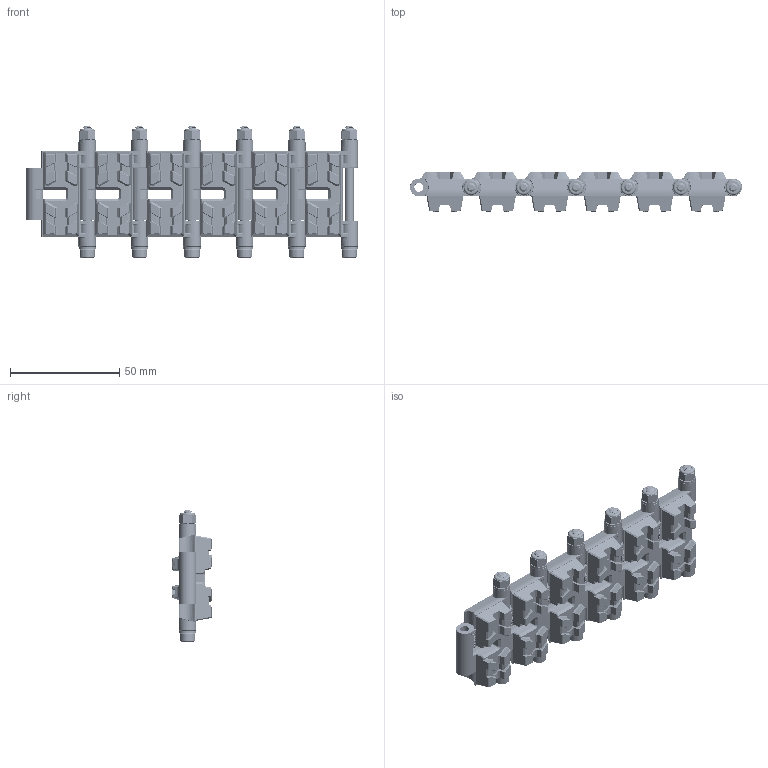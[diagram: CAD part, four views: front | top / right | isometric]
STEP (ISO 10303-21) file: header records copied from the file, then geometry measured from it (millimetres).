
FILE_DESCRIPTION (( 'STEP AP203' ), '1' );
FILE_NAME ('2400-0048-0001 6 link Assembly.STEP', '2024-02-27T20:35:01', ( '' ), ( '' ), 'SwSTEP 2.0', 'SolidWorks 2016', '' );
FILE_SCHEMA (( 'CONFIG_CONTROL_DESIGN' ));
Length unit declared in the file: millimetre
Products named in the file (7): 2400-0048-0001 Bolt_90128A207; 2400-0048-0001 6 link Assembly; 2801-0004-0008_91166A230; 2400-0048-0001 Tread; 2812-0004-0007_90576A103; 2400-0048-0001 Assembly; 2400-0048-0001 Rubber
Assembly tree (12 placements, depth 3):
  2400-0048-0001 6 link Assembly
    2400-0048-0001 Assembly  x6
      2400-0048-0001 Bolt_90128A207
      2801-0004-0008_91166A230
      2812-0004-0007_90576A103
      2400-0048-0001 Rubber
      2400-0048-0001 Tread
Bounding box: 152 x 18.17 x 60 mm (x, y, z)
Volume: 54874.6 mm3; surface area: 62205.8 mm2
Topology: 36 solids, 36 shells, 26616 faces, 67158 edges, 40602 vertices
Faces by surface type: cylinder 13596, torus 4674, plane 4182, bspline 3306, sphere 552, cone 306
Entity records: 172235 total; most frequent: CARTESIAN_POINT 67704, ORIENTED_EDGE 22186, DIRECTION 22009, EDGE_CURVE 11093, AXIS2_PLACEMENT_3D 8984, VERTEX_POINT 6758, CIRCLE 5089, EDGE_LOOP 4533
